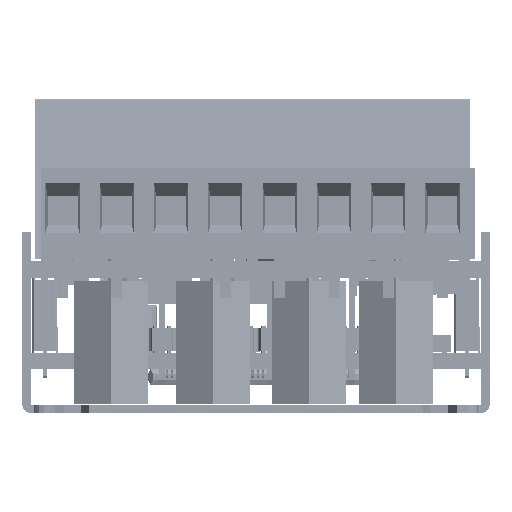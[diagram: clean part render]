
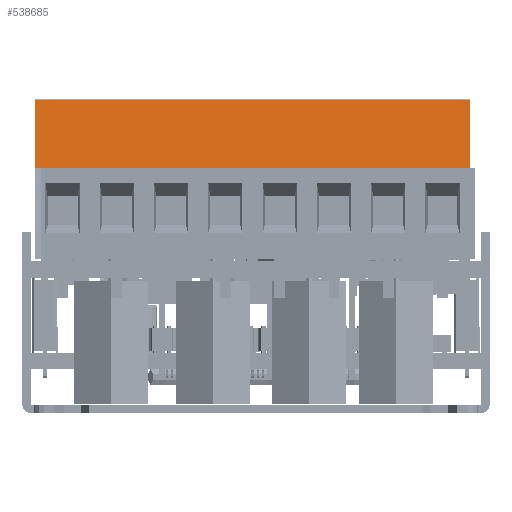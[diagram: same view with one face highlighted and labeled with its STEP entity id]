
A CAD part, left-side view. The second image highlights one B-rep face of the part: STEP entity #538685.
In plain terms, the highlighted planar face has unit normal (-0.991, 0, 0.137).
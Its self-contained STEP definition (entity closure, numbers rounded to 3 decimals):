
#56225 = CARTESIAN_POINT ( 'NONE',  ( -30.603, 50.176, 107.861 ) ) ;
#58296 = VERTEX_POINT ( 'NONE', #58576 ) ;
#58576 = CARTESIAN_POINT ( 'NONE',  ( -30.603, 9.536, 107.861 ) ) ;
#60621 = VERTEX_POINT ( 'NONE', #568360 ) ;
#61211 = VERTEX_POINT ( 'NONE', #85741 ) ;
#85741 = CARTESIAN_POINT ( 'NONE',  ( -31.479, 50.176, 101.534 ) ) ;
#89188 = ORIENTED_EDGE ( 'NONE', *, *, #106970, .F. ) ;
#89411 = VECTOR ( 'NONE', #92055, 1000. ) ;
#90607 = ORIENTED_EDGE ( 'NONE', *, *, #336189, .T. ) ;
#91850 = DIRECTION ( 'NONE',  ( -0.991, 0., 0.137 ) ) ;
#92055 = DIRECTION ( 'NONE',  ( 0., -1., 0. ) ) ;
#94000 = DIRECTION ( 'NONE',  ( 0.137, 0., 0.991 ) ) ;
#106970 = EDGE_CURVE ( 'NONE', #298137, #547106, #323847, .T. ) ;
#133745 = EDGE_CURVE ( 'NONE', #60621, #61211, #565058, .T. ) ;
#140026 = CARTESIAN_POINT ( 'NONE',  ( -31.479, 50.176, 101.534 ) ) ;
#162013 = ORIENTED_EDGE ( 'NONE', *, *, #268144, .F. ) ;
#175304 = VECTOR ( 'NONE', #548645, 1000. ) ;
#184139 = AXIS2_PLACEMENT_3D ( 'NONE', #286012, #91850, #94000 ) ;
#185793 = PLANE ( 'NONE',  #184139 ) ;
#191302 = VECTOR ( 'NONE', #434711, 1000. ) ;
#199020 = LINE ( 'NONE', #140026, #89411 ) ;
#211277 = ORIENTED_EDGE ( 'NONE', *, *, #133745, .T. ) ;
#230034 = VECTOR ( 'NONE', #300532, 1000. ) ;
#254521 = CARTESIAN_POINT ( 'NONE',  ( -30.603, 50.176, 107.861 ) ) ;
#268144 = EDGE_CURVE ( 'NONE', #58296, #298137, #621190, .T. ) ;
#279727 = EDGE_CURVE ( 'NONE', #61211, #547106, #199020, .T. ) ;
#286012 = CARTESIAN_POINT ( 'NONE',  ( -30.579, 50.176, 108.034 ) ) ;
#287803 = FACE_OUTER_BOUND ( 'NONE', #477559, .T. ) ;
#298137 = VERTEX_POINT ( 'NONE', #624717 ) ;
#300532 = DIRECTION ( 'NONE',  ( -0.137, 0., -0.991 ) ) ;
#323847 = LINE ( 'NONE', #334585, #191302 ) ;
#334585 = CARTESIAN_POINT ( 'NONE',  ( -31.479, 50.176, 101.534 ) ) ;
#335799 = ORIENTED_EDGE ( 'NONE', *, *, #279727, .T. ) ;
#336189 = EDGE_CURVE ( 'NONE', #58296, #60621, #456093, .T. ) ;
#365580 = CARTESIAN_POINT ( 'NONE',  ( -31.479, 49.686, 101.534 ) ) ;
#407278 = DIRECTION ( 'NONE',  ( -0.137, 0., -0.991 ) ) ;
#434711 = DIRECTION ( 'NONE',  ( 0., 1., 0. ) ) ;
#456093 = LINE ( 'NONE', #254521, #175304 ) ;
#477559 = EDGE_LOOP ( 'NONE', ( #89188, #162013, #90607, #211277, #335799 ) ) ;
#496176 = VECTOR ( 'NONE', #407278, 1000. ) ;
#538685 = ADVANCED_FACE ( 'NONE', ( #287803 ), #185793, .T. ) ;
#547106 = VERTEX_POINT ( 'NONE', #365580 ) ;
#548645 = DIRECTION ( 'NONE',  ( 0., 1., 0. ) ) ;
#561800 = CARTESIAN_POINT ( 'NONE',  ( -30.603, 9.536, 107.861 ) ) ;
#565058 = LINE ( 'NONE', #56225, #230034 ) ;
#568360 = CARTESIAN_POINT ( 'NONE',  ( -30.603, 50.176, 107.861 ) ) ;
#621190 = LINE ( 'NONE', #561800, #496176 ) ;
#624717 = CARTESIAN_POINT ( 'NONE',  ( -31.479, 9.536, 101.534 ) ) ;
